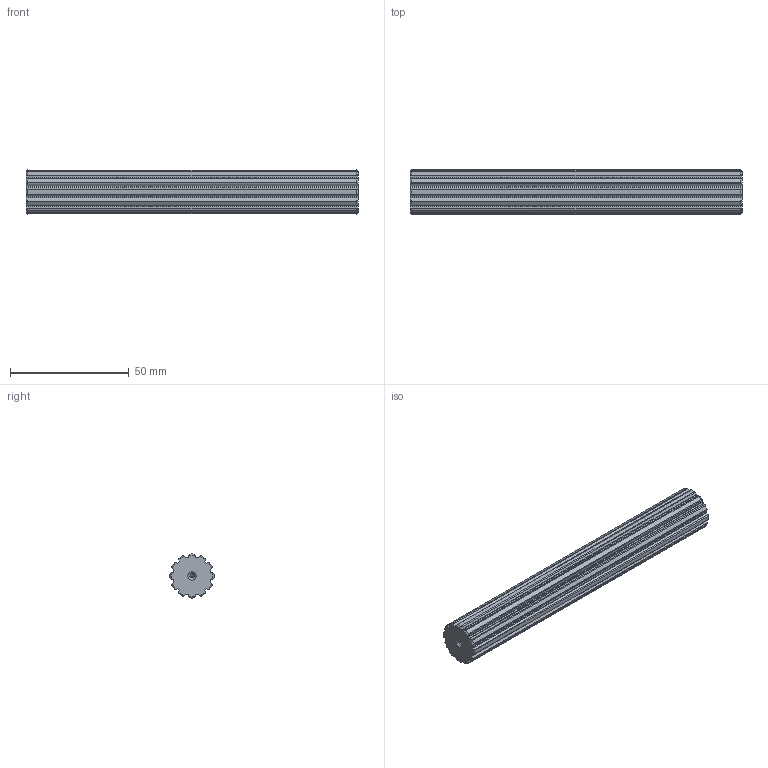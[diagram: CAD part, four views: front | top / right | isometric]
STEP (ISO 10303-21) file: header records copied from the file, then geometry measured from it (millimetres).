
FILE_DESCRIPTION(('STEP AP203'),'1');
FILE_NAME('bart_12.stp','2022-04-12T13:51:37',('TraceParts'),('TraceParts S.A.'),'Spatial InterOp 3D',' ',' ');
FILE_SCHEMA(('CONFIG_CONTROL_DESIGN'));
Length unit declared in the file: millimetre
Products named in the file (1): 1
Bounding box: 140 x 18.6 x 18.59 mm (x, y, z)
Volume: 34343.2 mm3; surface area: 10231.5 mm2
Topology: 1 solids, 1 shells, 138 faces, 400 edges, 262 vertices
Faces by surface type: cylinder 76, cone 36, plane 26
Entity records: 4788 total; most frequent: CARTESIAN_POINT 1229, ORIENTED_EDGE 792, DIRECTION 718, EDGE_CURVE 396, AXIS2_PLACEMENT_3D 279, VERTEX_POINT 262, LINE 160, VECTOR 160
